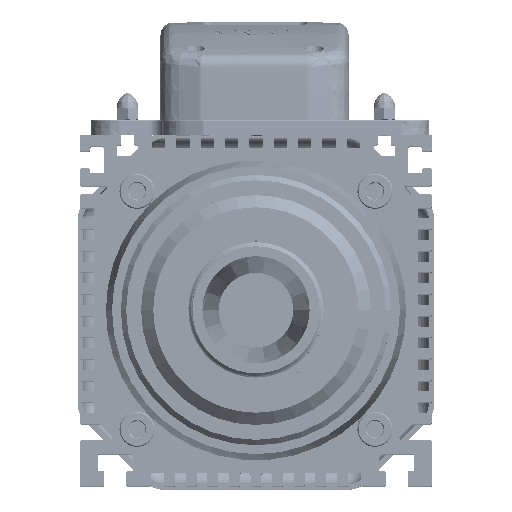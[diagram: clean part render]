
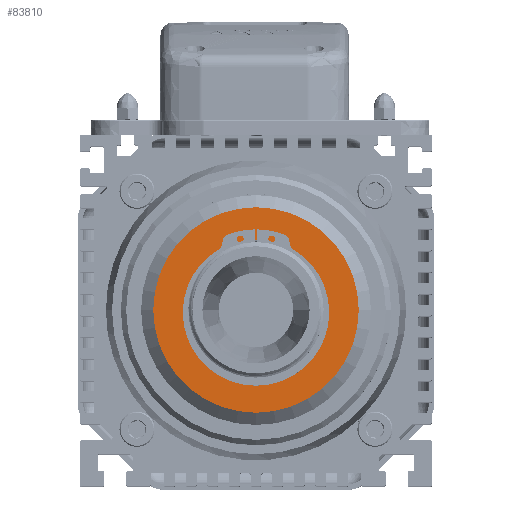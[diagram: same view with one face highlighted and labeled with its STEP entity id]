
A CAD part, top view. The second image highlights one B-rep face of the part: STEP entity #83810.
In plain terms, the highlighted planar face has unit normal (0, 0, 1).
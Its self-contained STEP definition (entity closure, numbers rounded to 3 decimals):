
#4140 = EDGE_CURVE ( 'NONE', #7356, #86006, #56037, .T. ) ;
#4463 = AXIS2_PLACEMENT_3D ( 'NONE', #56315, #45521, #34793 ) ;
#5137 = CIRCLE ( 'NONE', #4463, 26. ) ;
#7356 = VERTEX_POINT ( 'NONE', #102667 ) ;
#8658 = AXIS2_PLACEMENT_3D ( 'NONE', #101980, #80407, #69625 ) ;
#14306 = VERTEX_POINT ( 'NONE', #49154 ) ;
#25603 = ORIENTED_EDGE ( 'NONE', *, *, #39544, .T. ) ;
#31115 = ORIENTED_EDGE ( 'NONE', *, *, #4140, .T. ) ;
#31143 = DIRECTION ( 'NONE',  ( -1., 0., 0. ) ) ;
#34793 = DIRECTION ( 'NONE',  ( -1., 0., 0. ) ) ;
#37034 = ORIENTED_EDGE ( 'NONE', *, *, #99267, .T. ) ;
#37565 = AXIS2_PLACEMENT_3D ( 'NONE', #70005, #59165, #48294 ) ;
#38196 = AXIS2_PLACEMENT_3D ( 'NONE', #85770, #74958, #64134 ) ;
#39544 = EDGE_CURVE ( 'NONE', #14306, #88321, #5137, .T. ) ;
#41883 = DIRECTION ( 'NONE',  ( 0., 0., -1. ) ) ;
#42955 = FACE_BOUND ( 'NONE', #87383, .T. ) ;
#45521 = DIRECTION ( 'NONE',  ( 0., 0., -1. ) ) ;
#46355 = CIRCLE ( 'NONE', #8658, 38. ) ;
#48294 = DIRECTION ( 'NONE',  ( -1., 0., 0. ) ) ;
#48342 = FACE_OUTER_BOUND ( 'NONE', #75089, .T. ) ;
#49154 = CARTESIAN_POINT ( 'NONE',  ( -26., 0., 0. ) ) ;
#49569 = CARTESIAN_POINT ( 'NONE',  ( 26., 0., 0. ) ) ;
#52725 = CARTESIAN_POINT ( 'NONE',  ( 0., 0., 0. ) ) ;
#53204 = CARTESIAN_POINT ( 'NONE',  ( -38., 0., 0. ) ) ;
#56037 = CIRCLE ( 'NONE', #38196, 38. ) ;
#56315 = CARTESIAN_POINT ( 'NONE',  ( 0., 0., 0. ) ) ;
#59165 = DIRECTION ( 'NONE',  ( 0., 0., -1. ) ) ;
#62340 = ORIENTED_EDGE ( 'NONE', *, *, #78428, .T. ) ;
#64134 = DIRECTION ( 'NONE',  ( 1., 0., 0. ) ) ;
#67248 = CIRCLE ( 'NONE', #89031, 26. ) ;
#69625 = DIRECTION ( 'NONE',  ( 1., 0., 0. ) ) ;
#70005 = CARTESIAN_POINT ( 'NONE',  ( 0., 38., 0. ) ) ;
#74958 = DIRECTION ( 'NONE',  ( 0., 0., 1. ) ) ;
#75089 = EDGE_LOOP ( 'NONE', ( #62340, #31115 ) ) ;
#78428 = EDGE_CURVE ( 'NONE', #86006, #7356, #46355, .T. ) ;
#80407 = DIRECTION ( 'NONE',  ( 0., 0., 1. ) ) ;
#80797 = PLANE ( 'NONE',  #37565 ) ;
#83810 = ADVANCED_FACE ( 'NONE', ( #42955, #48342 ), #80797, .F. ) ;
#85770 = CARTESIAN_POINT ( 'NONE',  ( 0., 0., 0. ) ) ;
#86006 = VERTEX_POINT ( 'NONE', #53204 ) ;
#87383 = EDGE_LOOP ( 'NONE', ( #25603, #37034 ) ) ;
#88321 = VERTEX_POINT ( 'NONE', #49569 ) ;
#89031 = AXIS2_PLACEMENT_3D ( 'NONE', #52725, #41883, #31143 ) ;
#99267 = EDGE_CURVE ( 'NONE', #88321, #14306, #67248, .T. ) ;
#101980 = CARTESIAN_POINT ( 'NONE',  ( 0., 0., 0. ) ) ;
#102667 = CARTESIAN_POINT ( 'NONE',  ( 38., 0., 0. ) ) ;
